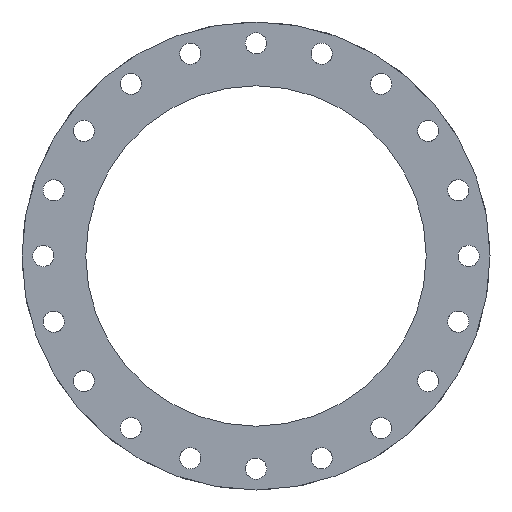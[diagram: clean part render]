
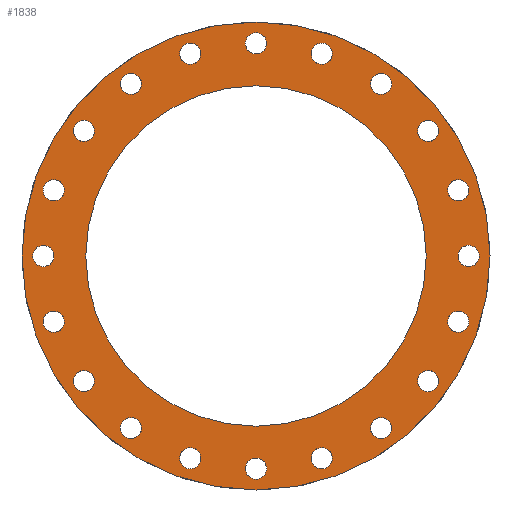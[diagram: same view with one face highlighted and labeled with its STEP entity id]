
A CAD part, left-side view. The second image highlights one B-rep face of the part: STEP entity #1838.
In plain terms, the highlighted planar face has unit normal (-1, 0, 0).
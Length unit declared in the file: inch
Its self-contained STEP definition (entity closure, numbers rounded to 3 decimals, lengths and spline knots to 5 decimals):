
#135=CARTESIAN_POINT('',(-4.,4.05585,12.48262));
#136=VERTEX_POINT('',#135);
#137=CARTESIAN_POINT('',(-4.,3.86271,11.88821));
#138=DIRECTION('',(1.,0.0,0.0));
#139=DIRECTION('',(0.0,-0.309,-0.951));
#140=AXIS2_PLACEMENT_3D('',#137,#138,#139);
#141=CIRCLE('',#140,0.625);
#142=EDGE_CURVE('',#136,#136,#141,.T.);
#163=CARTESIAN_POINT('',(-4.,7.71468,10.61835));
#164=VERTEX_POINT('',#163);
#165=CARTESIAN_POINT('',(-4.,7.34732,10.11271));
#166=DIRECTION('',(1.,0.0,0.0));
#167=DIRECTION('',(0.0,-0.588,-0.809));
#168=AXIS2_PLACEMENT_3D('',#165,#166,#167);
#169=CIRCLE('',#168,0.625);
#170=EDGE_CURVE('',#164,#164,#169,.T.);
#191=CARTESIAN_POINT('',(-4.,10.61835,7.71468));
#192=VERTEX_POINT('',#191);
#193=CARTESIAN_POINT('',(-4.,10.11271,7.34732));
#194=DIRECTION('',(1.,0.0,0.0));
#195=DIRECTION('',(0.0,-0.809,-0.588));
#196=AXIS2_PLACEMENT_3D('',#193,#194,#195);
#197=CIRCLE('',#196,0.625);
#198=EDGE_CURVE('',#192,#192,#197,.T.);
#219=CARTESIAN_POINT('',(-4.,12.48262,4.05585));
#220=VERTEX_POINT('',#219);
#221=CARTESIAN_POINT('',(-4.,11.88821,3.86271));
#222=DIRECTION('',(1.0,0.0,0.0));
#223=DIRECTION('',(0.0,-0.951,-0.309));
#224=AXIS2_PLACEMENT_3D('',#221,#222,#223);
#225=CIRCLE('',#224,0.625);
#226=EDGE_CURVE('',#220,#220,#225,.T.);
#247=CARTESIAN_POINT('',(-4.,13.125,0.));
#248=VERTEX_POINT('',#247);
#249=CARTESIAN_POINT('',(-4.,12.5,0.));
#250=DIRECTION('',(1.0,0.0,0.0));
#251=DIRECTION('',(0.0,-1.0,0.0));
#252=AXIS2_PLACEMENT_3D('',#249,#250,#251);
#253=CIRCLE('',#252,0.625);
#254=EDGE_CURVE('',#248,#248,#253,.T.);
#275=CARTESIAN_POINT('',(-4.,12.48262,-4.05585));
#276=VERTEX_POINT('',#275);
#277=CARTESIAN_POINT('',(-4.,11.88821,-3.86271));
#278=DIRECTION('',(1.,0.0,0.0));
#279=DIRECTION('',(0.0,-0.951,0.309));
#280=AXIS2_PLACEMENT_3D('',#277,#278,#279);
#281=CIRCLE('',#280,0.625);
#282=EDGE_CURVE('',#276,#276,#281,.T.);
#303=CARTESIAN_POINT('',(-4.,10.61835,-7.71468));
#304=VERTEX_POINT('',#303);
#305=CARTESIAN_POINT('',(-4.,10.11271,-7.34732));
#306=DIRECTION('',(1.0,0.0,0.0));
#307=DIRECTION('',(0.0,-0.809,0.588));
#308=AXIS2_PLACEMENT_3D('',#305,#306,#307);
#309=CIRCLE('',#308,0.625);
#310=EDGE_CURVE('',#304,#304,#309,.T.);
#331=CARTESIAN_POINT('',(-4.,7.71468,-10.61835));
#332=VERTEX_POINT('',#331);
#333=CARTESIAN_POINT('',(-4.,7.34732,-10.11271));
#334=DIRECTION('',(1.,0.0,0.0));
#335=DIRECTION('',(0.0,-0.588,0.809));
#336=AXIS2_PLACEMENT_3D('',#333,#334,#335);
#337=CIRCLE('',#336,0.625);
#338=EDGE_CURVE('',#332,#332,#337,.T.);
#359=CARTESIAN_POINT('',(-4.,4.05585,-12.48262));
#360=VERTEX_POINT('',#359);
#361=CARTESIAN_POINT('',(-4.,3.86271,-11.88821));
#362=DIRECTION('',(1.0,0.0,0.0));
#363=DIRECTION('',(0.0,-0.309,0.951));
#364=AXIS2_PLACEMENT_3D('',#361,#362,#363);
#365=CIRCLE('',#364,0.625);
#366=EDGE_CURVE('',#360,#360,#365,.T.);
#387=CARTESIAN_POINT('',(-4.,0.,-13.125));
#388=VERTEX_POINT('',#387);
#389=CARTESIAN_POINT('',(-4.,0.,-12.5));
#390=DIRECTION('',(1.0,0.0,0.0));
#391=DIRECTION('',(0.0,0.0,1.0));
#392=AXIS2_PLACEMENT_3D('',#389,#390,#391);
#393=CIRCLE('',#392,0.625);
#394=EDGE_CURVE('',#388,#388,#393,.T.);
#415=CARTESIAN_POINT('',(-4.,-4.05585,-12.48262));
#416=VERTEX_POINT('',#415);
#417=CARTESIAN_POINT('',(-4.,-3.86271,-11.88821));
#418=DIRECTION('',(1.,0.0,0.0));
#419=DIRECTION('',(0.0,0.309,0.951));
#420=AXIS2_PLACEMENT_3D('',#417,#418,#419);
#421=CIRCLE('',#420,0.625);
#422=EDGE_CURVE('',#416,#416,#421,.T.);
#443=CARTESIAN_POINT('',(-4.,-7.71468,-10.61835));
#444=VERTEX_POINT('',#443);
#445=CARTESIAN_POINT('',(-4.,-7.34732,-10.11271));
#446=DIRECTION('',(1.0,0.0,0.0));
#447=DIRECTION('',(0.0,0.588,0.809));
#448=AXIS2_PLACEMENT_3D('',#445,#446,#447);
#449=CIRCLE('',#448,0.625);
#450=EDGE_CURVE('',#444,#444,#449,.T.);
#471=CARTESIAN_POINT('',(-4.,-10.61835,-7.71468));
#472=VERTEX_POINT('',#471);
#473=CARTESIAN_POINT('',(-4.,-10.11271,-7.34732));
#474=DIRECTION('',(1.,0.0,0.0));
#475=DIRECTION('',(0.0,0.809,0.588));
#476=AXIS2_PLACEMENT_3D('',#473,#474,#475);
#477=CIRCLE('',#476,0.625);
#478=EDGE_CURVE('',#472,#472,#477,.T.);
#499=CARTESIAN_POINT('',(-4.,-12.48262,-4.05585));
#500=VERTEX_POINT('',#499);
#501=CARTESIAN_POINT('',(-4.,-11.88821,-3.86271));
#502=DIRECTION('',(1.0,0.0,0.0));
#503=DIRECTION('',(0.0,0.951,0.309));
#504=AXIS2_PLACEMENT_3D('',#501,#502,#503);
#505=CIRCLE('',#504,0.625);
#506=EDGE_CURVE('',#500,#500,#505,.T.);
#527=CARTESIAN_POINT('',(-4.,-13.125,0.));
#528=VERTEX_POINT('',#527);
#529=CARTESIAN_POINT('',(-4.,-12.5,0.));
#530=DIRECTION('',(1.0,0.0,0.0));
#531=DIRECTION('',(0.0,1.0,0.0));
#532=AXIS2_PLACEMENT_3D('',#529,#530,#531);
#533=CIRCLE('',#532,0.625);
#534=EDGE_CURVE('',#528,#528,#533,.T.);
#555=CARTESIAN_POINT('',(-4.,-12.48262,4.05585));
#556=VERTEX_POINT('',#555);
#557=CARTESIAN_POINT('',(-4.,-11.88821,3.86271));
#558=DIRECTION('',(1.,0.0,0.0));
#559=DIRECTION('',(0.0,0.951,-0.309));
#560=AXIS2_PLACEMENT_3D('',#557,#558,#559);
#561=CIRCLE('',#560,0.625);
#562=EDGE_CURVE('',#556,#556,#561,.T.);
#583=CARTESIAN_POINT('',(-4.,-10.61835,7.71468));
#584=VERTEX_POINT('',#583);
#585=CARTESIAN_POINT('',(-4.,-10.11271,7.34732));
#586=DIRECTION('',(1.,0.0,0.0));
#587=DIRECTION('',(0.0,0.809,-0.588));
#588=AXIS2_PLACEMENT_3D('',#585,#586,#587);
#589=CIRCLE('',#588,0.625);
#590=EDGE_CURVE('',#584,#584,#589,.T.);
#611=CARTESIAN_POINT('',(-4.,-7.71468,10.61835));
#612=VERTEX_POINT('',#611);
#613=CARTESIAN_POINT('',(-4.,-7.34732,10.11271));
#614=DIRECTION('',(1.,0.0,0.0));
#615=DIRECTION('',(0.0,0.588,-0.809));
#616=AXIS2_PLACEMENT_3D('',#613,#614,#615);
#617=CIRCLE('',#616,0.625);
#618=EDGE_CURVE('',#612,#612,#617,.T.);
#639=CARTESIAN_POINT('',(-4.,-4.05585,12.48262));
#640=VERTEX_POINT('',#639);
#641=CARTESIAN_POINT('',(-4.,-3.86271,11.88821));
#642=DIRECTION('',(1.,0.0,0.0));
#643=DIRECTION('',(0.0,0.309,-0.951));
#644=AXIS2_PLACEMENT_3D('',#641,#642,#643);
#645=CIRCLE('',#644,0.625);
#646=EDGE_CURVE('',#640,#640,#645,.T.);
#667=CARTESIAN_POINT('',(-4.,0.,13.125));
#668=VERTEX_POINT('',#667);
#669=CARTESIAN_POINT('',(-4.,0.0,12.5));
#670=DIRECTION('',(1.0,0.0,0.0));
#671=DIRECTION('',(0.0,0.0,-1.0));
#672=AXIS2_PLACEMENT_3D('',#669,#670,#671);
#673=CIRCLE('',#672,0.625);
#674=EDGE_CURVE('',#668,#668,#673,.T.);
#1255=CARTESIAN_POINT('',(-4.,13.75,0.0));
#1256=VERTEX_POINT('',#1255);
#1257=CARTESIAN_POINT('',(-4.,0.0,0.0));
#1258=DIRECTION('',(1.0,0.0,0.0));
#1259=DIRECTION('',(0.0,1.0,0.0));
#1260=AXIS2_PLACEMENT_3D('',#1257,#1258,#1259);
#1261=CIRCLE('',#1260,13.75);
#1262=EDGE_CURVE('',#1256,#1256,#1261,.T.);
#1752=CARTESIAN_POINT('',(-4.0,10.0,0.0));
#1753=VERTEX_POINT('',#1752);
#1754=CARTESIAN_POINT('',(-4.0,0.0,0.0));
#1755=DIRECTION('',(1.0,0.0,0.0));
#1756=DIRECTION('',(0.0,1.0,0.0));
#1757=AXIS2_PLACEMENT_3D('',#1754,#1755,#1756);
#1758=CIRCLE('',#1757,10.0);
#1759=EDGE_CURVE('',#1753,#1753,#1758,.T.);
#1767=CARTESIAN_POINT('',(-4.,11.875,0.0));
#1768=DIRECTION('',(-1.0,0.0,0.0));
#1769=DIRECTION('',(0.0,0.0,1.0));
#1770=AXIS2_PLACEMENT_3D('',#1767,#1768,#1769);
#1771=PLANE('',#1770);
#1772=ORIENTED_EDGE('',*,*,#1262,.F.);
#1773=EDGE_LOOP('',(#1772));
#1774=FACE_OUTER_BOUND('',#1773,.T.);
#1775=ORIENTED_EDGE('',*,*,#142,.T.);
#1776=EDGE_LOOP('',(#1775));
#1777=FACE_BOUND('',#1776,.T.);
#1778=ORIENTED_EDGE('',*,*,#170,.T.);
#1779=EDGE_LOOP('',(#1778));
#1780=FACE_BOUND('',#1779,.T.);
#1781=ORIENTED_EDGE('',*,*,#198,.T.);
#1782=EDGE_LOOP('',(#1781));
#1783=FACE_BOUND('',#1782,.T.);
#1784=ORIENTED_EDGE('',*,*,#226,.T.);
#1785=EDGE_LOOP('',(#1784));
#1786=FACE_BOUND('',#1785,.T.);
#1787=ORIENTED_EDGE('',*,*,#254,.T.);
#1788=EDGE_LOOP('',(#1787));
#1789=FACE_BOUND('',#1788,.T.);
#1790=ORIENTED_EDGE('',*,*,#282,.T.);
#1791=EDGE_LOOP('',(#1790));
#1792=FACE_BOUND('',#1791,.T.);
#1793=ORIENTED_EDGE('',*,*,#310,.T.);
#1794=EDGE_LOOP('',(#1793));
#1795=FACE_BOUND('',#1794,.T.);
#1796=ORIENTED_EDGE('',*,*,#338,.T.);
#1797=EDGE_LOOP('',(#1796));
#1798=FACE_BOUND('',#1797,.T.);
#1799=ORIENTED_EDGE('',*,*,#366,.T.);
#1800=EDGE_LOOP('',(#1799));
#1801=FACE_BOUND('',#1800,.T.);
#1802=ORIENTED_EDGE('',*,*,#394,.T.);
#1803=EDGE_LOOP('',(#1802));
#1804=FACE_BOUND('',#1803,.T.);
#1805=ORIENTED_EDGE('',*,*,#422,.T.);
#1806=EDGE_LOOP('',(#1805));
#1807=FACE_BOUND('',#1806,.T.);
#1808=ORIENTED_EDGE('',*,*,#450,.T.);
#1809=EDGE_LOOP('',(#1808));
#1810=FACE_BOUND('',#1809,.T.);
#1811=ORIENTED_EDGE('',*,*,#478,.T.);
#1812=EDGE_LOOP('',(#1811));
#1813=FACE_BOUND('',#1812,.T.);
#1814=ORIENTED_EDGE('',*,*,#506,.T.);
#1815=EDGE_LOOP('',(#1814));
#1816=FACE_BOUND('',#1815,.T.);
#1817=ORIENTED_EDGE('',*,*,#534,.T.);
#1818=EDGE_LOOP('',(#1817));
#1819=FACE_BOUND('',#1818,.T.);
#1820=ORIENTED_EDGE('',*,*,#562,.T.);
#1821=EDGE_LOOP('',(#1820));
#1822=FACE_BOUND('',#1821,.T.);
#1823=ORIENTED_EDGE('',*,*,#590,.T.);
#1824=EDGE_LOOP('',(#1823));
#1825=FACE_BOUND('',#1824,.T.);
#1826=ORIENTED_EDGE('',*,*,#618,.T.);
#1827=EDGE_LOOP('',(#1826));
#1828=FACE_BOUND('',#1827,.T.);
#1829=ORIENTED_EDGE('',*,*,#646,.T.);
#1830=EDGE_LOOP('',(#1829));
#1831=FACE_BOUND('',#1830,.T.);
#1832=ORIENTED_EDGE('',*,*,#674,.T.);
#1833=EDGE_LOOP('',(#1832));
#1834=FACE_BOUND('',#1833,.T.);
#1835=ORIENTED_EDGE('',*,*,#1759,.T.);
#1836=EDGE_LOOP('',(#1835));
#1837=FACE_BOUND('',#1836,.T.);
#1838=ADVANCED_FACE('',(#1774,#1777,#1780,#1783,#1786,#1789,#1792,#1795,#1798,#1801,#1804,#1807,#1810,#1813,#1816,#1819,#1822,#1825,#1828,#1831,#1834,#1837),#1771,.T.);
